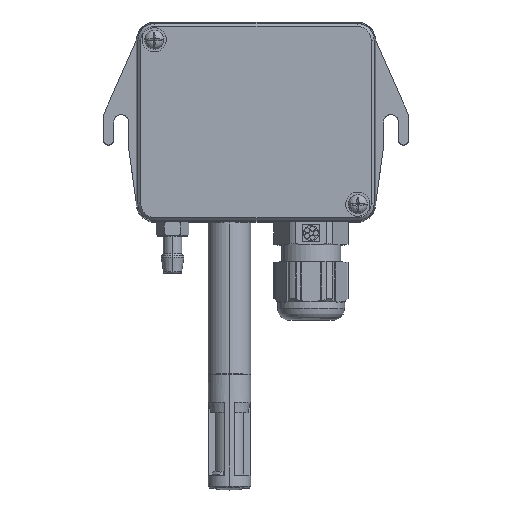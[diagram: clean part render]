
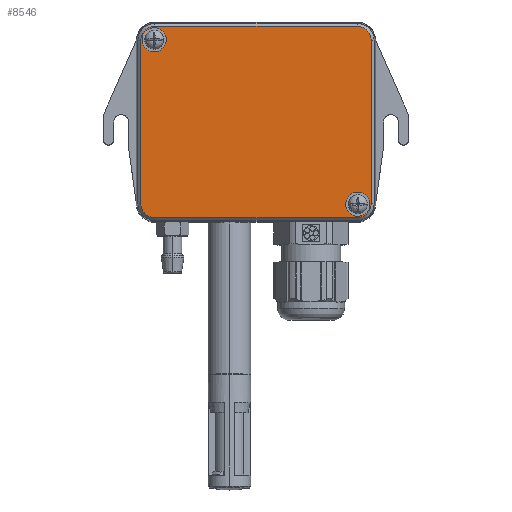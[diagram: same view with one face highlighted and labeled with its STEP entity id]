
A CAD part, top view. The second image highlights one B-rep face of the part: STEP entity #8546.
In plain terms, the highlighted planar face has unit normal (0, 0, 1).
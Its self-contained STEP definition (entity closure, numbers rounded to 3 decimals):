
#80 = ORIENTED_EDGE ( 'NONE', *, *, #27872, .T. ) ;
#598 = AXIS2_PLACEMENT_3D ( 'NONE', #14803, #31093, #22687 ) ;
#1820 = VERTEX_POINT ( 'NONE', #32909 ) ;
#1879 = CARTESIAN_POINT ( 'NONE',  ( 28.507, -23.034, 7.571 ) ) ;
#1894 = CARTESIAN_POINT ( 'NONE',  ( -28.841, 23.314, 7.571 ) ) ;
#2127 = CARTESIAN_POINT ( 'NONE',  ( 28.332, -22.859, 7.571 ) ) ;
#2781 = AXIS2_PLACEMENT_3D ( 'NONE', #2127, #24237, #23544 ) ;
#3136 = EDGE_CURVE ( 'NONE', #20825, #19682, #20481, .T. ) ;
#3215 = VECTOR ( 'NONE', #3361, 1000. ) ;
#3238 = CIRCLE ( 'NONE', #8814, 3.938 ) ;
#3361 = DIRECTION ( 'NONE',  ( 0., -1., 0. ) ) ;
#3467 = VECTOR ( 'NONE', #5505, 1000. ) ;
#3745 = ORIENTED_EDGE ( 'NONE', *, *, #3136, .T. ) ;
#3881 = LINE ( 'NONE', #14551, #12961 ) ;
#4962 = VERTEX_POINT ( 'NONE', #18773 ) ;
#5020 = ORIENTED_EDGE ( 'NONE', *, *, #10219, .T. ) ;
#5505 = DIRECTION ( 'NONE',  ( 1., 0., 0. ) ) ;
#5543 = CARTESIAN_POINT ( 'NONE',  ( -28.666, -26.798, 7.571 ) ) ;
#5654 = VERTEX_POINT ( 'NONE', #5543 ) ;
#6485 = AXIS2_PLACEMENT_3D ( 'NONE', #1879, #12547, #23991 ) ;
#8546 = ADVANCED_FACE ( 'NONE', ( #14633, #8857, #9547 ), #28191, .T. ) ;
#8814 = AXIS2_PLACEMENT_3D ( 'NONE', #17382, #20197, #20523 ) ;
#8857 = FACE_BOUND ( 'NONE', #33486, .T. ) ;
#9547 = FACE_OUTER_BOUND ( 'NONE', #33886, .T. ) ;
#9649 = DIRECTION ( 'NONE',  ( 0., 0., 1. ) ) ;
#9763 = CIRCLE ( 'NONE', #19302, 3.938 ) ;
#10095 = DIRECTION ( 'NONE',  ( 0., 0., -1. ) ) ;
#10219 = EDGE_CURVE ( 'NONE', #4962, #32636, #28061, .T. ) ;
#10224 = CARTESIAN_POINT ( 'NONE',  ( -0.167, -26.798, 7.571 ) ) ;
#10504 = EDGE_LOOP ( 'NONE', ( #21385, #21829 ) ) ;
#10988 = AXIS2_PLACEMENT_3D ( 'NONE', #29432, #10095, #20822 ) ;
#11610 = EDGE_CURVE ( 'NONE', #32636, #18490, #3881, .T. ) ;
#12359 = VECTOR ( 'NONE', #26668, 1000. ) ;
#12547 = DIRECTION ( 'NONE',  ( 0., 0., -1. ) ) ;
#12961 = VECTOR ( 'NONE', #25288, 1000. ) ;
#13460 = CARTESIAN_POINT ( 'NONE',  ( 32.27, 0.14, 7.571 ) ) ;
#13755 = VERTEX_POINT ( 'NONE', #14627 ) ;
#14407 = EDGE_CURVE ( 'NONE', #13755, #1820, #23895, .T. ) ;
#14457 = DIRECTION ( 'NONE',  ( 1., 0., 0. ) ) ;
#14481 = VERTEX_POINT ( 'NONE', #32753 ) ;
#14551 = CARTESIAN_POINT ( 'NONE',  ( -0.167, 27.078, 7.571 ) ) ;
#14627 = CARTESIAN_POINT ( 'NONE',  ( -25.441, 23.314, 7.571 ) ) ;
#14633 = FACE_BOUND ( 'NONE', #10504, .T. ) ;
#14803 = CARTESIAN_POINT ( 'NONE',  ( 28.332, 23.139, 7.571 ) ) ;
#15390 = CARTESIAN_POINT ( 'NONE',  ( -32.604, -22.859, 7.571 ) ) ;
#16059 = CIRCLE ( 'NONE', #20538, 3.4 ) ;
#17185 = ORIENTED_EDGE ( 'NONE', *, *, #22880, .T. ) ;
#17382 = CARTESIAN_POINT ( 'NONE',  ( -28.666, -22.859, 7.571 ) ) ;
#17748 = CARTESIAN_POINT ( 'NONE',  ( -32.604, 23.139, 7.571 ) ) ;
#18470 = EDGE_CURVE ( 'NONE', #24335, #14481, #32501, .T. ) ;
#18490 = VERTEX_POINT ( 'NONE', #21427 ) ;
#18773 = CARTESIAN_POINT ( 'NONE',  ( 32.27, 23.139, 7.571 ) ) ;
#19302 = AXIS2_PLACEMENT_3D ( 'NONE', #33742, #9649, #20375 ) ;
#19682 = VERTEX_POINT ( 'NONE', #33024 ) ;
#20158 = CARTESIAN_POINT ( 'NONE',  ( 31.907, -23.034, 7.571 ) ) ;
#20197 = DIRECTION ( 'NONE',  ( 0., 0., 1. ) ) ;
#20208 = VERTEX_POINT ( 'NONE', #17748 ) ;
#20274 = DIRECTION ( 'NONE',  ( 0., 0., 1. ) ) ;
#20375 = DIRECTION ( 'NONE',  ( -1., 0., 0. ) ) ;
#20481 = CIRCLE ( 'NONE', #6485, 3.4 ) ;
#20523 = DIRECTION ( 'NONE',  ( -1., 0., 0. ) ) ;
#20538 = AXIS2_PLACEMENT_3D ( 'NONE', #1894, #23133, #30866 ) ;
#20822 = DIRECTION ( 'NONE',  ( -1., 0., 0. ) ) ;
#20825 = VERTEX_POINT ( 'NONE', #20158 ) ;
#21385 = ORIENTED_EDGE ( 'NONE', *, *, #33234, .T. ) ;
#21427 = CARTESIAN_POINT ( 'NONE',  ( -28.666, 27.078, 7.571 ) ) ;
#21829 = ORIENTED_EDGE ( 'NONE', *, *, #14407, .T. ) ;
#21957 = CARTESIAN_POINT ( 'NONE',  ( -32.604, 0.14, 7.571 ) ) ;
#22355 = ORIENTED_EDGE ( 'NONE', *, *, #33778, .T. ) ;
#22687 = DIRECTION ( 'NONE',  ( -1., 0., 0. ) ) ;
#22880 = EDGE_CURVE ( 'NONE', #14481, #4962, #29143, .T. ) ;
#23133 = DIRECTION ( 'NONE',  ( 0., 0., -1. ) ) ;
#23544 = DIRECTION ( 'NONE',  ( -1., 0., 0. ) ) ;
#23557 = EDGE_CURVE ( 'NONE', #5654, #24335, #34321, .T. ) ;
#23895 = CIRCLE ( 'NONE', #10988, 3.4 ) ;
#23986 = ORIENTED_EDGE ( 'NONE', *, *, #18470, .T. ) ;
#23991 = DIRECTION ( 'NONE',  ( -1., 0., 0. ) ) ;
#24237 = DIRECTION ( 'NONE',  ( 0., 0., 1. ) ) ;
#24335 = VERTEX_POINT ( 'NONE', #25771 ) ;
#24466 = ORIENTED_EDGE ( 'NONE', *, *, #33833, .T. ) ;
#24907 = ORIENTED_EDGE ( 'NONE', *, *, #26581, .T. ) ;
#25288 = DIRECTION ( 'NONE',  ( -1., 0., 0. ) ) ;
#25371 = CARTESIAN_POINT ( 'NONE',  ( -0.167, 0.14, 7.571 ) ) ;
#25549 = CIRCLE ( 'NONE', #26679, 3.4 ) ;
#25771 = CARTESIAN_POINT ( 'NONE',  ( 28.332, -26.798, 7.571 ) ) ;
#26581 = EDGE_CURVE ( 'NONE', #19682, #20825, #25549, .T. ) ;
#26668 = DIRECTION ( 'NONE',  ( 0., 1., 0. ) ) ;
#26679 = AXIS2_PLACEMENT_3D ( 'NONE', #30277, #31306, #29029 ) ;
#26890 = CARTESIAN_POINT ( 'NONE',  ( 28.332, 27.078, 7.571 ) ) ;
#27872 = EDGE_CURVE ( 'NONE', #18490, #20208, #9763, .T. ) ;
#28061 = CIRCLE ( 'NONE', #598, 3.938 ) ;
#28191 = PLANE ( 'NONE',  #28372 ) ;
#28372 = AXIS2_PLACEMENT_3D ( 'NONE', #25371, #20274, #14457 ) ;
#29029 = DIRECTION ( 'NONE',  ( -1., 0., 0. ) ) ;
#29143 = LINE ( 'NONE', #13460, #12359 ) ;
#29432 = CARTESIAN_POINT ( 'NONE',  ( -28.841, 23.314, 7.571 ) ) ;
#29574 = VERTEX_POINT ( 'NONE', #15390 ) ;
#29819 = ORIENTED_EDGE ( 'NONE', *, *, #23557, .T. ) ;
#30277 = CARTESIAN_POINT ( 'NONE',  ( 28.507, -23.034, 7.571 ) ) ;
#30866 = DIRECTION ( 'NONE',  ( -1., 0., 0. ) ) ;
#31093 = DIRECTION ( 'NONE',  ( 0., 0., 1. ) ) ;
#31306 = DIRECTION ( 'NONE',  ( 0., 0., -1. ) ) ;
#32501 = CIRCLE ( 'NONE', #2781, 3.938 ) ;
#32636 = VERTEX_POINT ( 'NONE', #26890 ) ;
#32753 = CARTESIAN_POINT ( 'NONE',  ( 32.27, -22.859, 7.571 ) ) ;
#32909 = CARTESIAN_POINT ( 'NONE',  ( -32.241, 23.314, 7.571 ) ) ;
#33024 = CARTESIAN_POINT ( 'NONE',  ( 25.107, -23.034, 7.571 ) ) ;
#33234 = EDGE_CURVE ( 'NONE', #1820, #13755, #16059, .T. ) ;
#33369 = LINE ( 'NONE', #21957, #3215 ) ;
#33486 = EDGE_LOOP ( 'NONE', ( #24907, #3745 ) ) ;
#33742 = CARTESIAN_POINT ( 'NONE',  ( -28.666, 23.139, 7.571 ) ) ;
#33778 = EDGE_CURVE ( 'NONE', #20208, #29574, #33369, .T. ) ;
#33833 = EDGE_CURVE ( 'NONE', #29574, #5654, #3238, .T. ) ;
#33886 = EDGE_LOOP ( 'NONE', ( #17185, #5020, #34291, #80, #22355, #24466, #29819, #23986 ) ) ;
#34291 = ORIENTED_EDGE ( 'NONE', *, *, #11610, .T. ) ;
#34321 = LINE ( 'NONE', #10224, #3467 ) ;
